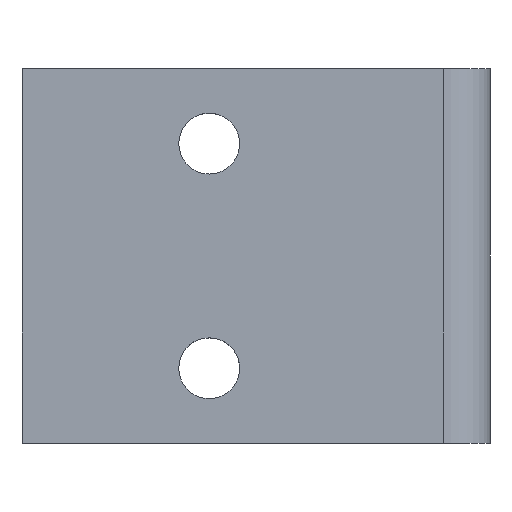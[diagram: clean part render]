
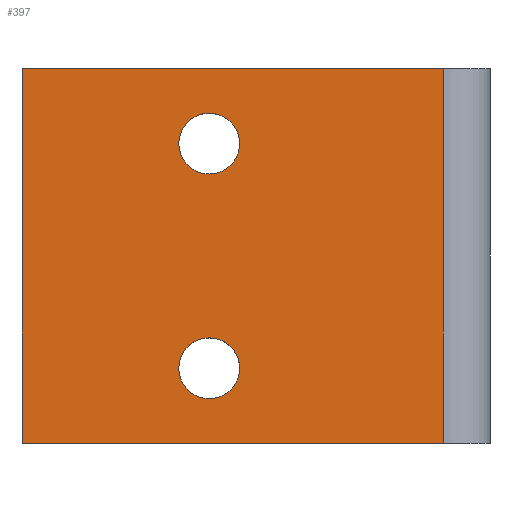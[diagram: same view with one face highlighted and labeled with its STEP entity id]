
A CAD part, top view. The second image highlights one B-rep face of the part: STEP entity #397.
In plain terms, the highlighted planar face has unit normal (0, 0, 1).
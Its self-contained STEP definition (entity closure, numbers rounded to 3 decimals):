
#19=DIRECTION('',(1.,0.,0.));
#20=VECTOR('',#19,45.);
#21=CARTESIAN_POINT('',(-45.,-20.,0.));
#22=LINE('',#21,#20);
#41=DIRECTION('',(1.,0.,0.));
#42=VECTOR('',#41,45.);
#43=CARTESIAN_POINT('',(-45.,20.,0.));
#44=LINE('',#43,#42);
#62=DIRECTION('',(0.,1.,0.));
#63=VECTOR('',#62,40.);
#64=CARTESIAN_POINT('',(0.,-20.,0.));
#65=LINE('',#64,#63);
#87=DIRECTION('',(0.,1.,0.));
#88=VECTOR('',#87,40.);
#89=CARTESIAN_POINT('',(-45.,-20.,0.));
#90=LINE('',#89,#88);
#91=CARTESIAN_POINT('',(-25.,-12.,0.));
#92=DIRECTION('',(0.,0.,-1.));
#93=DIRECTION('',(1.,0.,0.));
#94=AXIS2_PLACEMENT_3D('',#91,#92,#93);
#96=CARTESIAN_POINT('',(-25.,-12.,0.));
#97=DIRECTION('',(0.,0.,-1.));
#98=DIRECTION('',(-1.,0.,0.));
#99=AXIS2_PLACEMENT_3D('',#96,#97,#98);
#101=CARTESIAN_POINT('',(-25.,12.,0.));
#102=DIRECTION('',(0.,0.,-1.));
#103=DIRECTION('',(1.,0.,0.));
#104=AXIS2_PLACEMENT_3D('',#101,#102,#103);
#106=CARTESIAN_POINT('',(-25.,12.,0.));
#107=DIRECTION('',(0.,0.,-1.));
#108=DIRECTION('',(-1.,0.,0.));
#109=AXIS2_PLACEMENT_3D('',#106,#107,#108);
#183=CARTESIAN_POINT('',(-45.,-20.,0.));
#184=CARTESIAN_POINT('',(-45.,20.,0.));
#185=VERTEX_POINT('',#183);
#186=VERTEX_POINT('',#184);
#199=CARTESIAN_POINT('',(0.,-20.,0.));
#200=VERTEX_POINT('',#199);
#201=CARTESIAN_POINT('',(0.,20.,0.));
#202=VERTEX_POINT('',#201);
#211=CARTESIAN_POINT('',(-21.75,-12.,0.));
#212=CARTESIAN_POINT('',(-28.25,-12.,0.));
#213=VERTEX_POINT('',#211);
#214=VERTEX_POINT('',#212);
#215=CARTESIAN_POINT('',(-21.75,12.,0.));
#216=CARTESIAN_POINT('',(-28.25,12.,0.));
#217=VERTEX_POINT('',#215);
#218=VERTEX_POINT('',#216);
#374=CARTESIAN_POINT('',(-45.,-20.,0.));
#375=DIRECTION('',(0.,0.,1.));
#376=DIRECTION('',(1.,0.,0.));
#377=AXIS2_PLACEMENT_3D('',#374,#375,#376);
#378=PLANE('',#377);
#379=ORIENTED_EDGE('',*,*,#317,.F.);
#380=ORIENTED_EDGE('',*,*,#248,.F.);
#381=ORIENTED_EDGE('',*,*,#369,.T.);
#382=ORIENTED_EDGE('',*,*,#294,.T.);
#383=EDGE_LOOP('',(#379,#380,#381,#382));
#384=FACE_OUTER_BOUND('',#383,.F.);
#386=ORIENTED_EDGE('',*,*,#385,.F.);
#388=ORIENTED_EDGE('',*,*,#387,.F.);
#389=EDGE_LOOP('',(#386,#388));
#390=FACE_BOUND('',#389,.F.);
#392=ORIENTED_EDGE('',*,*,#391,.F.);
#394=ORIENTED_EDGE('',*,*,#393,.F.);
#395=EDGE_LOOP('',(#392,#394));
#396=FACE_BOUND('',#395,.F.);
#397=ADVANCED_FACE('',(#384,#390,#396),#378,.T.);
#95=CIRCLE('',#94,3.25);
#100=CIRCLE('',#99,3.25);
#105=CIRCLE('',#104,3.25);
#110=CIRCLE('',#109,3.25);
#248=EDGE_CURVE('',#185,#200,#22,.T.);
#294=EDGE_CURVE('',#186,#202,#44,.T.);
#317=EDGE_CURVE('',#200,#202,#65,.T.);
#369=EDGE_CURVE('',#185,#186,#90,.T.);
#385=EDGE_CURVE('',#213,#214,#95,.T.);
#387=EDGE_CURVE('',#214,#213,#100,.T.);
#391=EDGE_CURVE('',#217,#218,#105,.T.);
#393=EDGE_CURVE('',#218,#217,#110,.T.);
